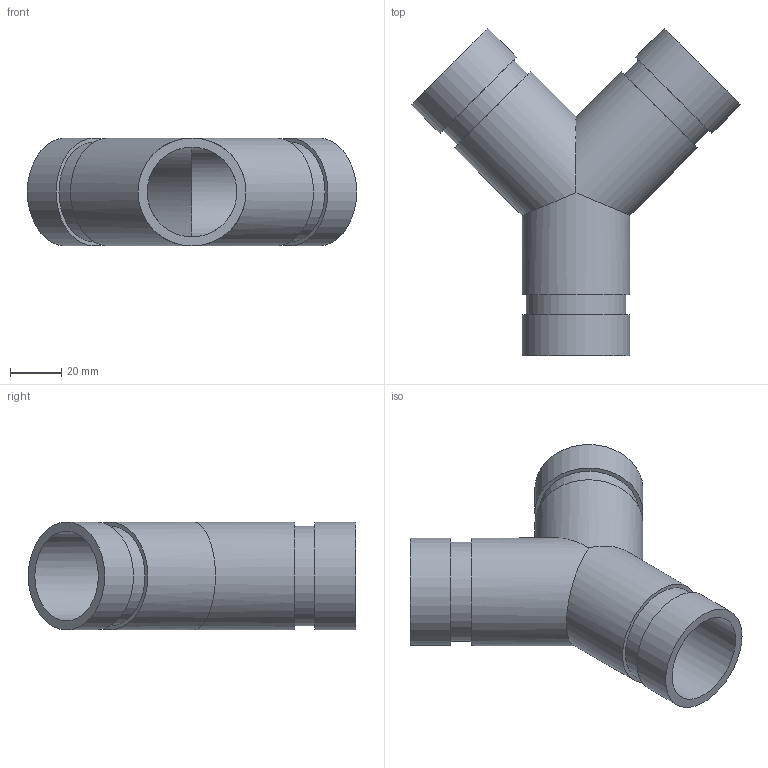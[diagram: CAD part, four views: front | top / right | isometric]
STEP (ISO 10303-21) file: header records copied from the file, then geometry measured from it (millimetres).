
FILE_DESCRIPTION(/* description */ ('This is default description.','CAx-IF Rec.Pracs.---Representation and Presentation of Product Manufacturing Information (PMI)---4.0---2014-10-13'),/* implementation_level */ '2;1');
FILE_NAME(/* name */ 'C:\Users\kkamble\AppData\Roaming\Autodesk\ApplicationPlugins\Back Up\Victaulic_IPS-Tee- Wye_ No 33 SWS (OGS)\Victaulic_IPS-Tee- Wye_ No 33 SWS (OGS)_1.25.stp',/* time_stamp */ '2020-09-16T22:07:47+06:00',/* author */ ('cgray'),/* organization */ ('Victaulic'),/* preprocessor_version */ 'ST-DEVELOPER v17.2',/* originating_system */ 'Autodesk Inventor 2019',/* authorisation */ '');
FILE_SCHEMA (('AP242_MANAGED_MODEL_BASED_3D_ENGINEERING_MIM_LF { 1 0 10303 442 1 1 4 }'));
Length unit declared in the file: inch
Products named in the file (1): 33 SWS-01.25
Bounding box: 128.6 x 127.8 x 42.16 mm (x, y, z)
Volume: 73096.5 mm3; surface area: 46065.7 mm2
Topology: 1 solids, 1 shells, 21 faces, 48 edges, 34 vertices
Faces by surface type: cylinder 12, plane 9
Full cylindrical faces by diameter (mm): 35.052 x3, 38.989 x3, 42.164 x6
Entity records: 787 total; most frequent: DIRECTION 154, CARTESIAN_POINT 121, ORIENTED_EDGE 96, AXIS2_PLACEMENT_3D 71, EDGE_CURVE 48, VERTEX_POINT 34, EDGE_LOOP 30, CIRCLE 26
